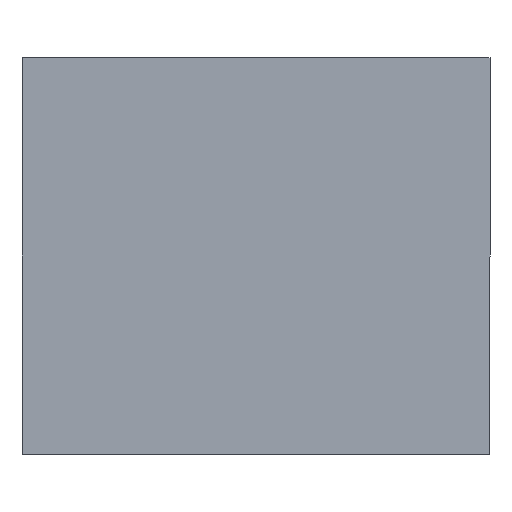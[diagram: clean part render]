
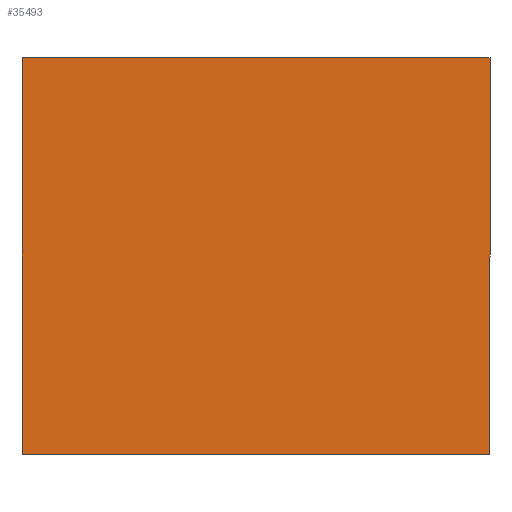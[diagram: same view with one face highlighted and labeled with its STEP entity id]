
A CAD part, front view. The second image highlights one B-rep face of the part: STEP entity #35493.
In plain terms, the highlighted planar face has unit normal (0, -1, 0).
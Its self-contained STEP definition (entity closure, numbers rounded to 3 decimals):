
#409 = ORIENTED_EDGE ( 'NONE', *, *, #22855, .T. ) ;
#3859 = EDGE_LOOP ( 'NONE', ( #409, #27283, #13481, #53969 ) ) ;
#5259 = LINE ( 'NONE', #55899, #17243 ) ;
#5434 = DIRECTION ( 'NONE',  ( 0., 0., -1. ) ) ;
#9426 = LINE ( 'NONE', #65368, #30467 ) ;
#13481 = ORIENTED_EDGE ( 'NONE', *, *, #68989, .F. ) ;
#14164 = DIRECTION ( 'NONE',  ( 0., 0., -1. ) ) ;
#15579 = AXIS2_PLACEMENT_3D ( 'NONE', #66659, #55009, #14164 ) ;
#17243 = VECTOR ( 'NONE', #67197, 1000. ) ;
#19021 = VERTEX_POINT ( 'NONE', #45562 ) ;
#19840 = PLANE ( 'NONE',  #15579 ) ;
#21402 = LINE ( 'NONE', #61125, #64816 ) ;
#21983 = VERTEX_POINT ( 'NONE', #43885 ) ;
#22855 = EDGE_CURVE ( 'NONE', #42187, #52226, #45853, .T. ) ;
#23110 = CARTESIAN_POINT ( 'NONE',  ( -460., -195.035, -390. ) ) ;
#27283 = ORIENTED_EDGE ( 'NONE', *, *, #39675, .T. ) ;
#27566 = VECTOR ( 'NONE', #5434, 1000. ) ;
#28542 = EDGE_CURVE ( 'NONE', #42187, #19021, #21402, .T. ) ;
#30467 = VECTOR ( 'NONE', #32435, 1000. ) ;
#32435 = DIRECTION ( 'NONE',  ( 1., 0., 0. ) ) ;
#35014 = CARTESIAN_POINT ( 'NONE',  ( -460., -195.035, 390. ) ) ;
#35493 = ADVANCED_FACE ( 'NONE', ( #48577 ), #19840, .T. ) ;
#39675 = EDGE_CURVE ( 'NONE', #52226, #21983, #9426, .T. ) ;
#40533 = CARTESIAN_POINT ( 'NONE',  ( -460., -195.035, 390. ) ) ;
#42187 = VERTEX_POINT ( 'NONE', #35014 ) ;
#43885 = CARTESIAN_POINT ( 'NONE',  ( 460., -195.035, -390. ) ) ;
#45562 = CARTESIAN_POINT ( 'NONE',  ( 460., -195.035, 390. ) ) ;
#45853 = LINE ( 'NONE', #40533, #27566 ) ;
#48577 = FACE_OUTER_BOUND ( 'NONE', #3859, .T. ) ;
#50511 = DIRECTION ( 'NONE',  ( 1., 0., 0. ) ) ;
#52226 = VERTEX_POINT ( 'NONE', #23110 ) ;
#53969 = ORIENTED_EDGE ( 'NONE', *, *, #28542, .F. ) ;
#55009 = DIRECTION ( 'NONE',  ( 0., -1., 0. ) ) ;
#55899 = CARTESIAN_POINT ( 'NONE',  ( 460., -195.035, 390. ) ) ;
#61125 = CARTESIAN_POINT ( 'NONE',  ( -1315.351, -195.035, 390. ) ) ;
#64816 = VECTOR ( 'NONE', #50511, 1000. ) ;
#65368 = CARTESIAN_POINT ( 'NONE',  ( -1315.351, -195.035, -390. ) ) ;
#66659 = CARTESIAN_POINT ( 'NONE',  ( -1315.351, -195.035, 390. ) ) ;
#67197 = DIRECTION ( 'NONE',  ( 0., 0., -1. ) ) ;
#68989 = EDGE_CURVE ( 'NONE', #19021, #21983, #5259, .T. ) ;
